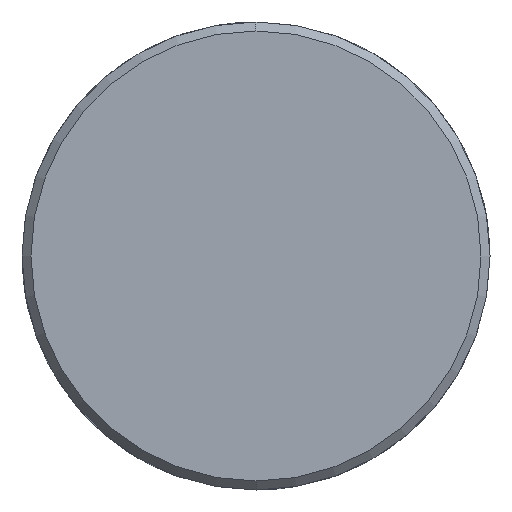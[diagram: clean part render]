
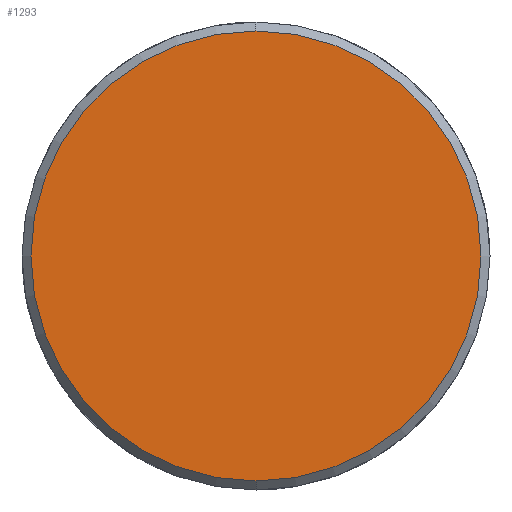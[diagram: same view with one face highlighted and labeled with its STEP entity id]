
A CAD part, left-side view. The second image highlights one B-rep face of the part: STEP entity #1293.
In plain terms, the highlighted planar face has unit normal (-1, 0, 0).
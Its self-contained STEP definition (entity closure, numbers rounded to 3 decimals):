
#1225=CARTESIAN_POINT('Vertex',(-8.,0.,-25.)) ;
#1228=CARTESIAN_POINT('Axis2P3D Location',(-8.,0.,0.)) ;
#1232=CARTESIAN_POINT('Vertex',(-8.,25.,0.)) ;
#1235=CARTESIAN_POINT('Axis2P3D Location',(-8.,0.,0.)) ;
#1239=CARTESIAN_POINT('Vertex',(-8.,0.,25.)) ;
#1261=CARTESIAN_POINT('Axis2P3D Location',(-8.,0.,0.)) ;
#1265=CARTESIAN_POINT('Vertex',(-8.,-25.,0.)) ;
#1268=CARTESIAN_POINT('Axis2P3D Location',(-8.,0.,0.)) ;
#1282=CARTESIAN_POINT('Axis2P3D Location',(-8.,0.,0.)) ;
#1229=DIRECTION('Axis2P3D Direction',(1.,0.,-0.)) ;
#1236=DIRECTION('Axis2P3D Direction',(1.,0.,-0.)) ;
#1262=DIRECTION('Axis2P3D Direction',(1.,0.,-0.)) ;
#1269=DIRECTION('Axis2P3D Direction',(1.,0.,-0.)) ;
#1283=DIRECTION('Axis2P3D Direction',(1.,0.,-0.)) ;
#1284=DIRECTION('Axis2P3D XDirection',(-0.,0.,-1.)) ;
#1230=AXIS2_PLACEMENT_3D('Circle Axis2P3D',#1228,#1229,$) ;
#1237=AXIS2_PLACEMENT_3D('Circle Axis2P3D',#1235,#1236,$) ;
#1263=AXIS2_PLACEMENT_3D('Circle Axis2P3D',#1261,#1262,$) ;
#1270=AXIS2_PLACEMENT_3D('Circle Axis2P3D',#1268,#1269,$) ;
#1285=AXIS2_PLACEMENT_3D('Plane Axis2P3D',#1282,#1283,#1284) ;
#1288=ORIENTED_EDGE('',*,*,#1234,.F.) ;
#1289=ORIENTED_EDGE('',*,*,#1272,.F.) ;
#1290=ORIENTED_EDGE('',*,*,#1267,.F.) ;
#1291=ORIENTED_EDGE('',*,*,#1241,.F.) ;
#1293=ADVANCED_FACE('351-40X96X220',(#1292),#1286,.F.) ;
#1231=CIRCLE('generated circle',#1230,25.) ;
#1238=CIRCLE('generated circle',#1237,25.) ;
#1264=CIRCLE('generated circle',#1263,25.) ;
#1271=CIRCLE('generated circle',#1270,25.) ;
#1234=EDGE_CURVE('',#1226,#1233,#1231,.T.) ;
#1241=EDGE_CURVE('',#1233,#1240,#1238,.T.) ;
#1267=EDGE_CURVE('',#1240,#1266,#1264,.T.) ;
#1272=EDGE_CURVE('',#1266,#1226,#1271,.T.) ;
#1287=EDGE_LOOP('',(#1288,#1289,#1290,#1291)) ;
#1292=FACE_OUTER_BOUND('',#1287,.T.) ;
#1286=PLANE('Plane',#1285) ;
#1226=VERTEX_POINT('',#1225) ;
#1233=VERTEX_POINT('',#1232) ;
#1240=VERTEX_POINT('',#1239) ;
#1266=VERTEX_POINT('',#1265) ;
